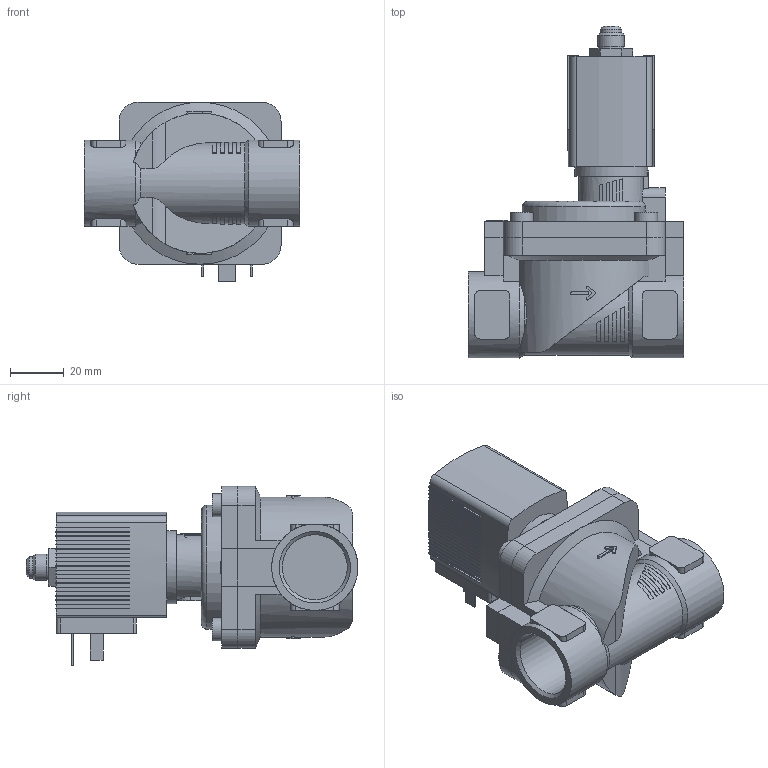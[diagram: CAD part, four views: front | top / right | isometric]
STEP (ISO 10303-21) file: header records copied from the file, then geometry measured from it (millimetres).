
FILE_DESCRIPTION(/* description */ ('STEP AP214'),/* implementation_level */ '2;1');
FILE_NAME(/* name */ '6281-338197-2_2-Way_Solenoid_Valve__Servo-assisted__General_Purpose',/* time_stamp */ '2024-05-27T10:16:42+02:00',/* author */ ('License CC BY-ND 4.0'),/* organization */ ('CADENAS'),/* preprocessor_version */ 'ST-DEVELOPER v19.3',/* originating_system */ 'PARTsolutions',/* authorisation */ ' ');
FILE_SCHEMA (('AUTOMOTIVE_DESIGN {1 0 10303 214 3 1 1}'));
Length unit declared in the file: millimetre
Products named in the file (4): 6281-338197-2/2-Way Solenoid Valve, Servo-assisted, General Purpose; 5281ev200MS2/2-Wege-Magnetventil mit Servomembran-Deckel   ; 6213-20G3/4MS-Gehaeuse-; AC10ex-5OO-Gewinde-Coil
Assembly tree (3 placements, depth 2):
  6281-338197-2/2-Way Solenoid Valve, Servo-assisted, General Purpose
    5281ev200MS2/2-Wege-Magnetventil mit Servomembran-Deckel   
    6213-20G3/4MS-Gehaeuse-
    AC10ex-5OO-Gewinde-Coil
Bounding box: 80 x 123 x 66.5 mm (x, y, z)
Volume: 198065 mm3; surface area: 43338.5 mm2
Topology: 3 solids, 3 shells, 537 faces, 1477 edges, 979 vertices
Faces by surface type: plane 430, cylinder 89, cone 17, torus 1
Full cylindrical faces by diameter (mm): 2.013 x1, 2.7 x1, 8 x1, 8.5 x4, 9.73 x1, 9.74 x1, 24.117 x2, 27 x1, 32 x1
Entity records: 19647 total; most frequent: CARTESIAN_POINT 3214, ORIENTED_EDGE 2900, DIRECTION 2792, EDGE_CURVE 1450, LINE 1060, VECTOR 1060, VERTEX_POINT 970, AXIS2_PLACEMENT_3D 866
